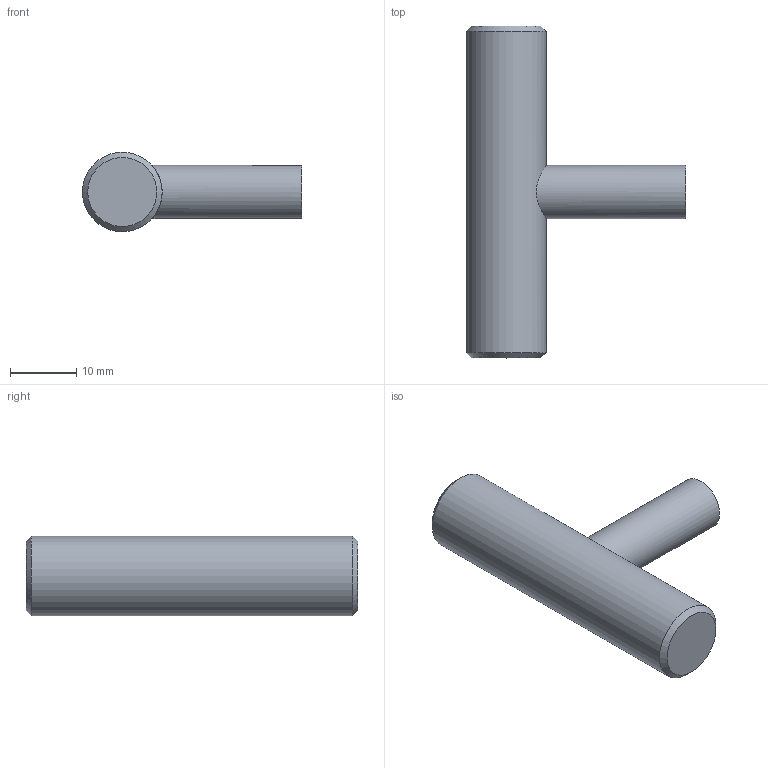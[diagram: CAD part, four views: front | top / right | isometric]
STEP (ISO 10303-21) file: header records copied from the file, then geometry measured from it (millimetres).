
FILE_DESCRIPTION(('STEP AP214'),'1');
FILE_NAME('S148-T.stp','2026-04-22T06:07:03',(' '),(' '),'Spatial InterOp 3D',' ',' ');
FILE_SCHEMA(('AUTOMOTIVE_DESIGN { 1 0 10303 214 1 1 1 1 }'));
Length unit declared in the file: metre
Products named in the file (1): 22052
Bounding box: 33 x 50 x 12 mm (x, y, z)
Volume: 6516.7 mm3; surface area: 2805.5 mm2
Topology: 1 solids, 1 shells, 9 faces, 19 edges, 13 vertices
Faces by surface type: plane 4, cylinder 3, cone 2
Full cylindrical faces by diameter (mm): 4 x1, 8 x1, 12 x1
Entity records: 326 total; most frequent: CARTESIAN_POINT 85, DIRECTION 34, AXIS2_PLACEMENT_3D 17, EDGE_LOOP 16, ORIENTED_EDGE 16, FACE_OUTER_BOUND 12, STYLED_ITEM 10, PRESENTATION_STYLE_ASSIGNMENT 10
